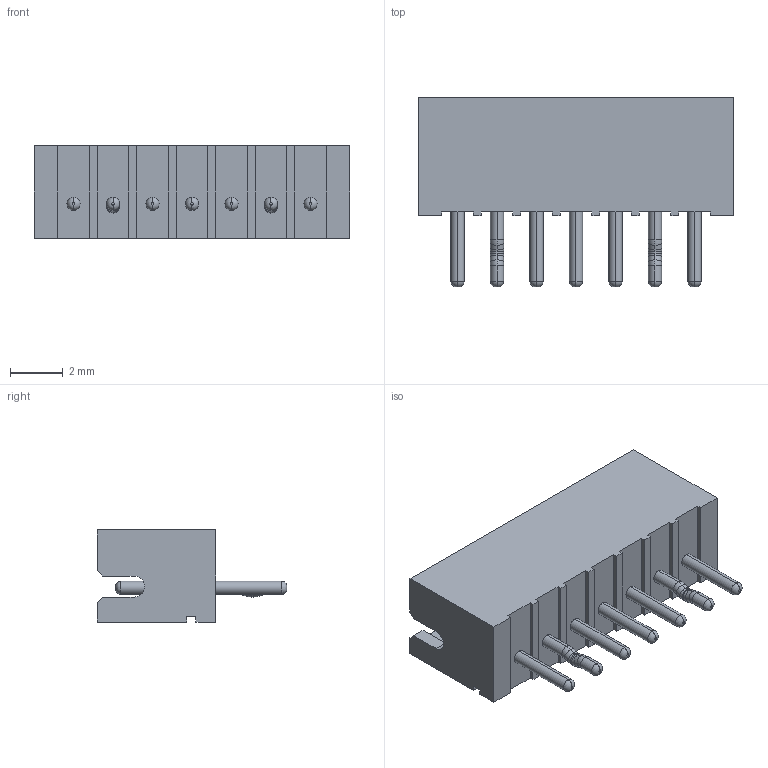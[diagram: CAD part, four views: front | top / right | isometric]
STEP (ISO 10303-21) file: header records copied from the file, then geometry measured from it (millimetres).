
FILE_DESCRIPTION (( 'STEP AP214' ), '1' );
FILE_NAME ('B7B-ZR (LF)(SN).STEP', '2023-11-03T19:02:43', ( '' ), ( '' ), 'SwSTEP 2.0', 'SolidWorks 2021', '' );
FILE_SCHEMA (( 'AUTOMOTIVE_DESIGN' ));
Length unit declared in the file: millimetre
Products named in the file (4): B7B-ZR (LF)(SN); BxB-ZR_7; pin_Bent; pin_straight
Assembly tree (8 placements, depth 2):
  B7B-ZR (LF)(SN)
    BxB-ZR_7
    pin_straight  x5
    pin_Bent  x2
Bounding box: 12 x 7.2 x 3.5 mm (x, y, z)
Volume: 93 mm3; surface area: 404.3 mm2
Topology: 8 solids, 8 shells, 164 faces, 390 edges, 240 vertices
Faces by surface type: plane 74, cylinder 46, torus 44
Entity records: 3570 total; most frequent: DIRECTION 606, CARTESIAN_POINT 591, ORIENTED_EDGE 576, EDGE_CURVE 288, LINE 208, VECTOR 208, AXIS2_PLACEMENT_3D 199, VERTEX_POINT 184
